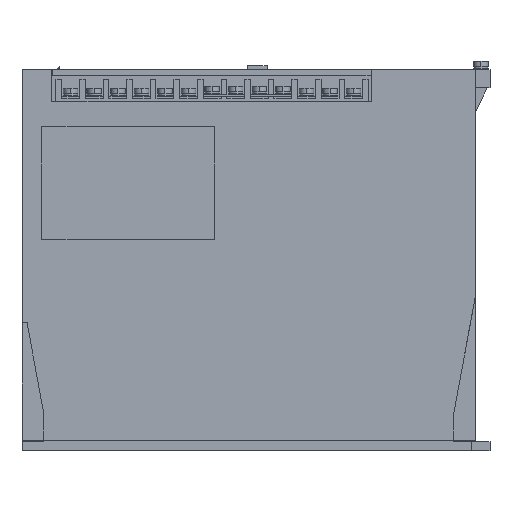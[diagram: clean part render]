
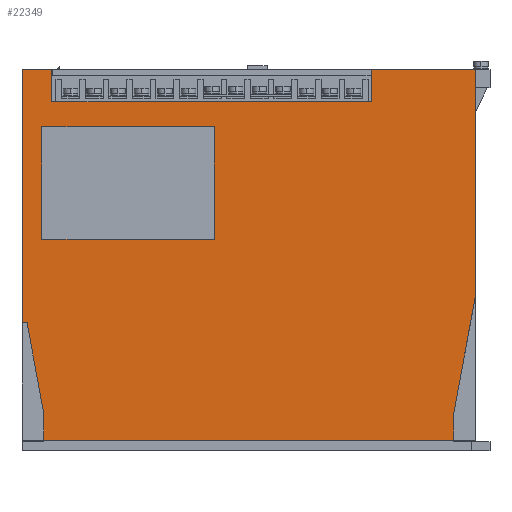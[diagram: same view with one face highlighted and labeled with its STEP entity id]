
A CAD part, left-side view. The second image highlights one B-rep face of the part: STEP entity #22349.
In plain terms, the highlighted planar face has unit normal (-1, 0, 0).
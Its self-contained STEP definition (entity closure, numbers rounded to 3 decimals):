
#1006 = VERTEX_POINT ( 'NONE', #24031 ) ;
#1042 = EDGE_CURVE ( 'NONE', #1081, #1006, #24110, .T. ) ;
#1081 = VERTEX_POINT ( 'NONE', #24171 ) ;
#1320 = ORIENTED_EDGE ( 'NONE', *, *, #1321, .F. ) ;
#1321 = EDGE_CURVE ( 'NONE', #1322, #22346, #24608, .T. ) ;
#1322 = VERTEX_POINT ( 'NONE', #24604 ) ;
#1323 = ORIENTED_EDGE ( 'NONE', *, *, #1324, .F. ) ;
#1324 = EDGE_CURVE ( 'NONE', #1325, #1322, #24603, .T. ) ;
#1325 = VERTEX_POINT ( 'NONE', #24599 ) ;
#1326 = ORIENTED_EDGE ( 'NONE', *, *, #1327, .F. ) ;
#1327 = EDGE_CURVE ( 'NONE', #22347, #1325, #24598, .T. ) ;
#5022 = EDGE_CURVE ( 'NONE', #1006, #5024, #31090, .T. ) ;
#5024 = VERTEX_POINT ( 'NONE', #31086 ) ;
#5080 = VERTEX_POINT ( 'NONE', #31191 ) ;
#5084 = EDGE_CURVE ( 'NONE', #5080, #65741, #31190, .T. ) ;
#7325 = VERTEX_POINT ( 'NONE', #34791 ) ;
#7330 = EDGE_CURVE ( 'NONE', #5080, #7325, #34784, .T. ) ;
#22231 = VERTEX_POINT ( 'NONE', #59514 ) ;
#22276 = VERTEX_POINT ( 'NONE', #59569 ) ;
#22292 = EDGE_CURVE ( 'NONE', #5024, #22231, #59614, .T. ) ;
#22333 = EDGE_CURVE ( 'NONE', #22334, #22276, #59671, .T. ) ;
#22334 = VERTEX_POINT ( 'NONE', #59667 ) ;
#22344 = ORIENTED_EDGE ( 'NONE', *, *, #22345, .F. ) ;
#22345 = EDGE_CURVE ( 'NONE', #22346, #22347, #59713, .T. ) ;
#22346 = VERTEX_POINT ( 'NONE', #59709 ) ;
#22347 = VERTEX_POINT ( 'NONE', #59708 ) ;
#22349 = ADVANCED_FACE ( 'NONE', ( #59707, #59705 ), #59704, .F. ) ;
#22350 = EDGE_LOOP ( 'NONE', ( #22351, #22352, #22353, #22354, #22355, #22358, #22360, #22417, #22419, #22420, #22422, #22423, #22424 ) ) ;
#22351 = ORIENTED_EDGE ( 'NONE', *, *, #57949, .F. ) ;
#22352 = ORIENTED_EDGE ( 'NONE', *, *, #65738, .T. ) ;
#22353 = ORIENTED_EDGE ( 'NONE', *, *, #5084, .F. ) ;
#22354 = ORIENTED_EDGE ( 'NONE', *, *, #7330, .T. ) ;
#22355 = ORIENTED_EDGE ( 'NONE', *, *, #22356, .T. ) ;
#22356 = EDGE_CURVE ( 'NONE', #7325, #22357, #59699, .T. ) ;
#22357 = VERTEX_POINT ( 'NONE', #59760 ) ;
#22358 = ORIENTED_EDGE ( 'NONE', *, *, #22359, .F. ) ;
#22359 = EDGE_CURVE ( 'NONE', #22334, #22357, #59759, .T. ) ;
#22360 = ORIENTED_EDGE ( 'NONE', *, *, #22333, .T. ) ;
#22384 = VERTEX_POINT ( 'NONE', #59776 ) ;
#22386 = EDGE_CURVE ( 'NONE', #22384, #22387, #59775, .T. ) ;
#22387 = VERTEX_POINT ( 'NONE', #59771 ) ;
#22417 = ORIENTED_EDGE ( 'NONE', *, *, #22418, .T. ) ;
#22418 = EDGE_CURVE ( 'NONE', #22276, #22387, #59819, .T. ) ;
#22419 = ORIENTED_EDGE ( 'NONE', *, *, #22386, .F. ) ;
#22420 = ORIENTED_EDGE ( 'NONE', *, *, #22421, .T. ) ;
#22421 = EDGE_CURVE ( 'NONE', #22384, #22231, #59815, .T. ) ;
#22422 = ORIENTED_EDGE ( 'NONE', *, *, #22292, .F. ) ;
#22423 = ORIENTED_EDGE ( 'NONE', *, *, #5022, .F. ) ;
#22424 = ORIENTED_EDGE ( 'NONE', *, *, #1042, .F. ) ;
#22425 = EDGE_LOOP ( 'NONE', ( #22344, #1320, #1323, #1326 ) ) ;
#24031 = CARTESIAN_POINT ( 'NONE',  ( -105., -186.7, 210. ) ) ;
#24107 = DIRECTION ( 'NONE',  ( 0., 0., 1. ) ) ;
#24108 = VECTOR ( 'NONE', #24107, 1000. ) ;
#24109 = CARTESIAN_POINT ( 'NONE',  ( -105., -186.7, 192.2 ) ) ;
#24110 = LINE ( 'NONE', #24109, #24108 ) ;
#24171 = CARTESIAN_POINT ( 'NONE',  ( -105., -186.7, 192.2 ) ) ;
#24595 = DIRECTION ( 'NONE',  ( 0., 1., 0. ) ) ;
#24596 = VECTOR ( 'NONE', #24595, 1000. ) ;
#24597 = CARTESIAN_POINT ( 'NONE',  ( -105., -5., 178.5 ) ) ;
#24598 = LINE ( 'NONE', #24597, #24596 ) ;
#24599 = CARTESIAN_POINT ( 'NONE',  ( -105., -5., 178.5 ) ) ;
#24600 = DIRECTION ( 'NONE',  ( 0., 0., -1. ) ) ;
#24601 = VECTOR ( 'NONE', #24600, 1000. ) ;
#24602 = CARTESIAN_POINT ( 'NONE',  ( -105., -5., 116.5 ) ) ;
#24603 = LINE ( 'NONE', #24602, #24601 ) ;
#24604 = CARTESIAN_POINT ( 'NONE',  ( -105., -5., 116.5 ) ) ;
#24605 = DIRECTION ( 'NONE',  ( 0., -1., 0. ) ) ;
#24606 = VECTOR ( 'NONE', #24605, 1000. ) ;
#24607 = CARTESIAN_POINT ( 'NONE',  ( -105., -5., 116.5 ) ) ;
#24608 = LINE ( 'NONE', #24607, #24606 ) ;
#31086 = CARTESIAN_POINT ( 'NONE',  ( -105., -244., 210. ) ) ;
#31087 = DIRECTION ( 'NONE',  ( 0., -1., 0. ) ) ;
#31088 = VECTOR ( 'NONE', #31087, 1000. ) ;
#31089 = CARTESIAN_POINT ( 'NONE',  ( -105., 6., 210. ) ) ;
#31090 = LINE ( 'NONE', #31089, #31088 ) ;
#31187 = DIRECTION ( 'NONE',  ( 0., -1., 0. ) ) ;
#31188 = VECTOR ( 'NONE', #31187, 1000. ) ;
#31189 = CARTESIAN_POINT ( 'NONE',  ( -105., 6., 210. ) ) ;
#31190 = LINE ( 'NONE', #31189, #31188 ) ;
#31191 = CARTESIAN_POINT ( 'NONE',  ( -105., 6., 210. ) ) ;
#34781 = DIRECTION ( 'NONE',  ( 0., 0., -1. ) ) ;
#34782 = VECTOR ( 'NONE', #34781, 1000. ) ;
#34783 = CARTESIAN_POINT ( 'NONE',  ( -105., 6., 467.13 ) ) ;
#34784 = LINE ( 'NONE', #34783, #34782 ) ;
#34791 = CARTESIAN_POINT ( 'NONE',  ( -105., 6., 70.5 ) ) ;
#57949 = EDGE_CURVE ( 'NONE', #65719, #1081, #62199, .T. ) ;
#59514 = CARTESIAN_POINT ( 'NONE',  ( -105., -244., 85.5 ) ) ;
#59569 = CARTESIAN_POINT ( 'NONE',  ( -105., -6., 5.7 ) ) ;
#59611 = DIRECTION ( 'NONE',  ( 0., 0., -1. ) ) ;
#59612 = VECTOR ( 'NONE', #59611, 1000. ) ;
#59613 = CARTESIAN_POINT ( 'NONE',  ( -105., -244., 467.13 ) ) ;
#59614 = LINE ( 'NONE', #59613, #59612 ) ;
#59667 = CARTESIAN_POINT ( 'NONE',  ( -105., -6., 20.5 ) ) ;
#59668 = DIRECTION ( 'NONE',  ( 0., 0., -1. ) ) ;
#59669 = VECTOR ( 'NONE', #59668, 1000. ) ;
#59670 = CARTESIAN_POINT ( 'NONE',  ( -105., -6., 20.5 ) ) ;
#59671 = LINE ( 'NONE', #59670, #59669 ) ;
#59699 = LINE ( 'NONE', #59763, #59762 ) ;
#59700 = DIRECTION ( 'NONE',  ( 0., 0., -1. ) ) ;
#59701 = DIRECTION ( 'NONE',  ( 1., 0., 0. ) ) ;
#59702 = CARTESIAN_POINT ( 'NONE',  ( -105., 6., 483.13 ) ) ;
#59703 = AXIS2_PLACEMENT_3D ( 'NONE', #59702, #59701, #59700 ) ;
#59704 = PLANE ( 'NONE',  #59703 ) ;
#59705 = FACE_BOUND ( 'NONE', #22425, .T. ) ;
#59707 = FACE_OUTER_BOUND ( 'NONE', #22350, .T. ) ;
#59708 = CARTESIAN_POINT ( 'NONE',  ( -105., -100., 178.5 ) ) ;
#59709 = CARTESIAN_POINT ( 'NONE',  ( -105., -100., 116.5 ) ) ;
#59710 = DIRECTION ( 'NONE',  ( 0., 0., 1. ) ) ;
#59711 = VECTOR ( 'NONE', #59710, 1000. ) ;
#59712 = CARTESIAN_POINT ( 'NONE',  ( -105., -100., 116.5 ) ) ;
#59713 = LINE ( 'NONE', #59712, #59711 ) ;
#59756 = DIRECTION ( 'NONE',  ( 0., 0.182, 0.983 ) ) ;
#59757 = VECTOR ( 'NONE', #59756, 1000. ) ;
#59758 = CARTESIAN_POINT ( 'NONE',  ( -105., -6., 20.5 ) ) ;
#59759 = LINE ( 'NONE', #59758, #59757 ) ;
#59760 = CARTESIAN_POINT ( 'NONE',  ( -105., 3.231, 70.5 ) ) ;
#59761 = DIRECTION ( 'NONE',  ( 0., -1., 0. ) ) ;
#59762 = VECTOR ( 'NONE', #59761, 1000. ) ;
#59763 = CARTESIAN_POINT ( 'NONE',  ( -105., 6., 70.5 ) ) ;
#59771 = CARTESIAN_POINT ( 'NONE',  ( -105., -232., 5.7 ) ) ;
#59772 = DIRECTION ( 'NONE',  ( 0., 0., -1. ) ) ;
#59773 = VECTOR ( 'NONE', #59772, 1000. ) ;
#59774 = CARTESIAN_POINT ( 'NONE',  ( -105., -232., 20.5 ) ) ;
#59775 = LINE ( 'NONE', #59774, #59773 ) ;
#59776 = CARTESIAN_POINT ( 'NONE',  ( -105., -232., 20.5 ) ) ;
#59812 = DIRECTION ( 'NONE',  ( 0., -0.182, 0.983 ) ) ;
#59813 = VECTOR ( 'NONE', #59812, 1000. ) ;
#59814 = CARTESIAN_POINT ( 'NONE',  ( -105., -232., 20.5 ) ) ;
#59815 = LINE ( 'NONE', #59814, #59813 ) ;
#59816 = DIRECTION ( 'NONE',  ( 0., -1., 0. ) ) ;
#59817 = VECTOR ( 'NONE', #59816, 1000. ) ;
#59818 = CARTESIAN_POINT ( 'NONE',  ( -105., -6., 5.7 ) ) ;
#59819 = LINE ( 'NONE', #59818, #59817 ) ;
#62196 = DIRECTION ( 'NONE',  ( 0., -1., 0. ) ) ;
#62197 = VECTOR ( 'NONE', #62196, 1000. ) ;
#62198 = CARTESIAN_POINT ( 'NONE',  ( -105., -10.5, 192.2 ) ) ;
#62199 = LINE ( 'NONE', #62198, #62197 ) ;
#62918 = CARTESIAN_POINT ( 'NONE',  ( -105., -10.5, 192.2 ) ) ;
#62948 = CARTESIAN_POINT ( 'NONE',  ( -105., -10.5, 210. ) ) ;
#62954 = DIRECTION ( 'NONE',  ( 0., 0., 1. ) ) ;
#62955 = VECTOR ( 'NONE', #62954, 1000. ) ;
#62956 = CARTESIAN_POINT ( 'NONE',  ( -105., -10.5, 192.2 ) ) ;
#62957 = LINE ( 'NONE', #62956, #62955 ) ;
#65719 = VERTEX_POINT ( 'NONE', #62918 ) ;
#65738 = EDGE_CURVE ( 'NONE', #65719, #65741, #62957, .T. ) ;
#65741 = VERTEX_POINT ( 'NONE', #62948 ) ;
